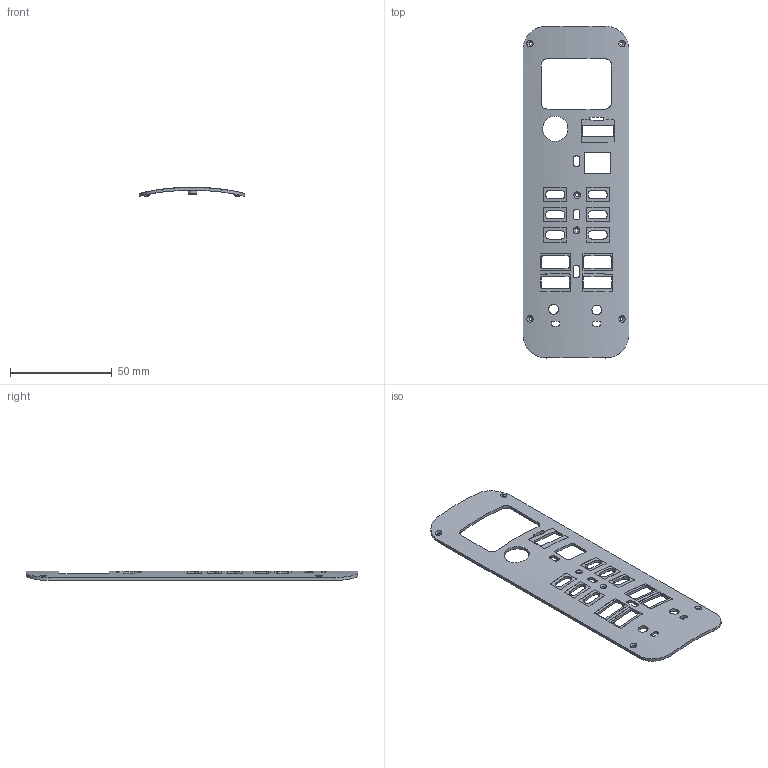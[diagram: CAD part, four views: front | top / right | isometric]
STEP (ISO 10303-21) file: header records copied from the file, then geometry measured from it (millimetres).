
FILE_DESCRIPTION(('Open CASCADE Model'),'2;1');
FILE_NAME('Open CASCADE Shape Model','2026-10-02T16:20:41',('Author'),( 'Open CASCADE'),'Open CASCADE STEP processor 7.9','Open CASCADE 7.9' ,'Unknown');
FILE_SCHEMA(('AUTOMOTIVE_DESIGN { 1 0 10303 214 1 1 1 1 }'));
Length unit declared in the file: millimetre
Products named in the file (1): Open CASCADE STEP translator 7.9 1
Bounding box: 51.9 x 163.1 x 4.7 mm (x, y, z)
Volume: 9148.6 mm3; surface area: 14760.8 mm2
Topology: 1 solids, 1 shells, 269 faces, 747 edges, 496 vertices
Faces by surface type: cylinder 137, plane 120, cone 12
Full cylindrical faces by diameter (mm): 1.8 x6, 2.6 x1, 2.8 x4, 4.2 x1, 4.8 x2, 12.4 x1
Entity records: 27079 total; most frequent: CARTESIAN_POINT 13401, DIRECTION 2132, ORIENTED_EDGE 1494, PCURVE 1494, DEFINITIONAL_REPRESENTATION 1494, LINE 1089, VECTOR 1089, B_SPLINE_CURVE_WITH_KNOTS 778
